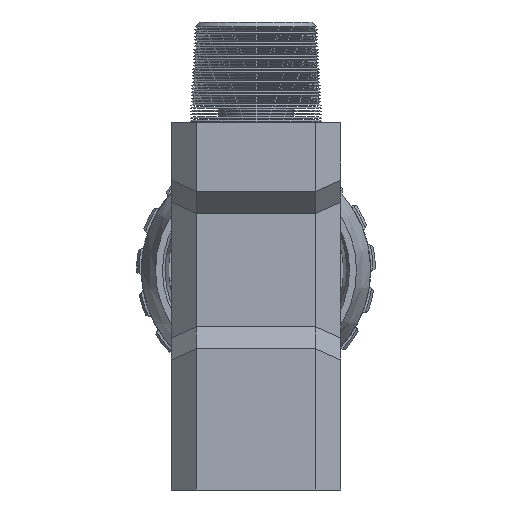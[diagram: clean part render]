
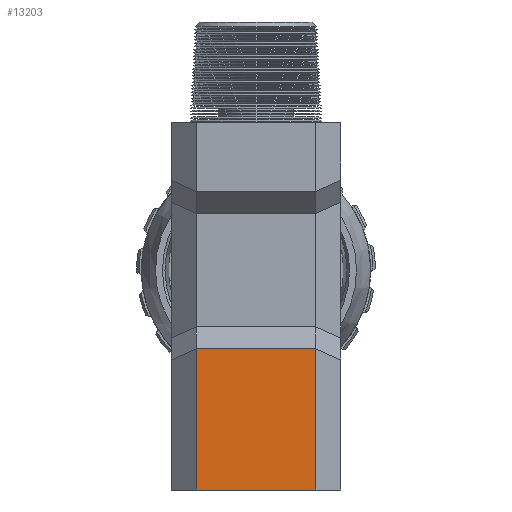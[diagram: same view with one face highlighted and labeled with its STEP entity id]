
A CAD part, front view. The second image highlights one B-rep face of the part: STEP entity #13203.
In plain terms, the highlighted planar face has unit normal (0, -1, 0).
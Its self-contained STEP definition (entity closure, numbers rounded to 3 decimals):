
#676 = VECTOR ( 'NONE', #18120, 1000. ) ;
#1573 = CARTESIAN_POINT ( 'NONE',  ( -13.5, -13.5, -35. ) ) ;
#2545 = VERTEX_POINT ( 'NONE', #5830 ) ;
#4337 = VECTOR ( 'NONE', #18153, 1000. ) ;
#4374 = CARTESIAN_POINT ( 'NONE',  ( 9.5, -13.5, 39.5 ) ) ;
#4502 = DIRECTION ( 'NONE',  ( 0., 0., 1. ) ) ;
#5830 = CARTESIAN_POINT ( 'NONE',  ( -9.5, -13.5, -12.5 ) ) ;
#6131 = EDGE_CURVE ( 'NONE', #26074, #12211, #16084, .T. ) ;
#7073 = CARTESIAN_POINT ( 'NONE',  ( -13.5, -13.5, 39.5 ) ) ;
#8148 = PLANE ( 'NONE',  #16711 ) ;
#8679 = EDGE_CURVE ( 'NONE', #2545, #16751, #9951, .T. ) ;
#9951 = LINE ( 'NONE', #12032, #4337 ) ;
#10519 = VECTOR ( 'NONE', #4502, 1000. ) ;
#11031 = DIRECTION ( 'NONE',  ( 0., 1., 0. ) ) ;
#12032 = CARTESIAN_POINT ( 'NONE',  ( -9.5, -13.5, 39.5 ) ) ;
#12211 = VERTEX_POINT ( 'NONE', #20375 ) ;
#13203 = ADVANCED_FACE ( 'NONE', ( #17096 ), #8148, .F. ) ;
#13747 = VECTOR ( 'NONE', #18401, 1000. ) ;
#14100 = ORIENTED_EDGE ( 'NONE', *, *, #25664, .T. ) ;
#14488 = LINE ( 'NONE', #22169, #676 ) ;
#15175 = EDGE_LOOP ( 'NONE', ( #14100, #22110, #25681, #26388 ) ) ;
#15708 = EDGE_CURVE ( 'NONE', #2545, #12211, #14488, .T. ) ;
#16084 = LINE ( 'NONE', #4374, #10519 ) ;
#16711 = AXIS2_PLACEMENT_3D ( 'NONE', #7073, #11031, #22639 ) ;
#16751 = VERTEX_POINT ( 'NONE', #20689 ) ;
#17096 = FACE_OUTER_BOUND ( 'NONE', #15175, .T. ) ;
#18120 = DIRECTION ( 'NONE',  ( 1., 0., 0. ) ) ;
#18153 = DIRECTION ( 'NONE',  ( 0., 0., -1. ) ) ;
#18401 = DIRECTION ( 'NONE',  ( 1., 0., 0. ) ) ;
#20375 = CARTESIAN_POINT ( 'NONE',  ( 9.5, -13.5, -12.5 ) ) ;
#20689 = CARTESIAN_POINT ( 'NONE',  ( -9.5, -13.5, -35. ) ) ;
#22110 = ORIENTED_EDGE ( 'NONE', *, *, #6131, .T. ) ;
#22169 = CARTESIAN_POINT ( 'NONE',  ( -13.5, -13.5, -12.5 ) ) ;
#22639 = DIRECTION ( 'NONE',  ( 0., 0., 1. ) ) ;
#24267 = CARTESIAN_POINT ( 'NONE',  ( 9.5, -13.5, -35. ) ) ;
#25522 = LINE ( 'NONE', #1573, #13747 ) ;
#25664 = EDGE_CURVE ( 'NONE', #16751, #26074, #25522, .T. ) ;
#25681 = ORIENTED_EDGE ( 'NONE', *, *, #15708, .F. ) ;
#26074 = VERTEX_POINT ( 'NONE', #24267 ) ;
#26388 = ORIENTED_EDGE ( 'NONE', *, *, #8679, .T. ) ;
